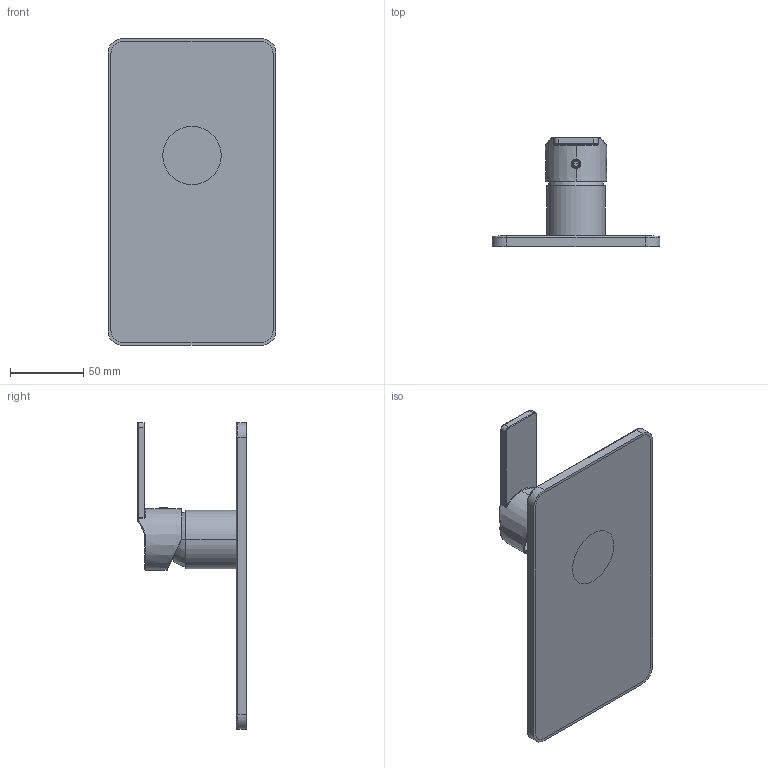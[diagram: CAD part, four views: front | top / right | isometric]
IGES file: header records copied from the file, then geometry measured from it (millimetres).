
Start section:  PTC IGES file: 47521A.igs
Global section: file name: 47521A.igs; native system: Creo Parametric by PTC Inc.; preprocessor: 2022014; author: carloff; organization: Unknown; date: 20241213.111628; units: millimetre
Bounding box: 115 x 74.6 x 210 mm (x, y, z)
Surface area: 119127.2 mm2 (no closed solid volume)
Topology: 0 solids, 0 shells, 280 faces, 1456 edges, 1452 vertices
Faces by surface type: bspline 144, revolution 136
